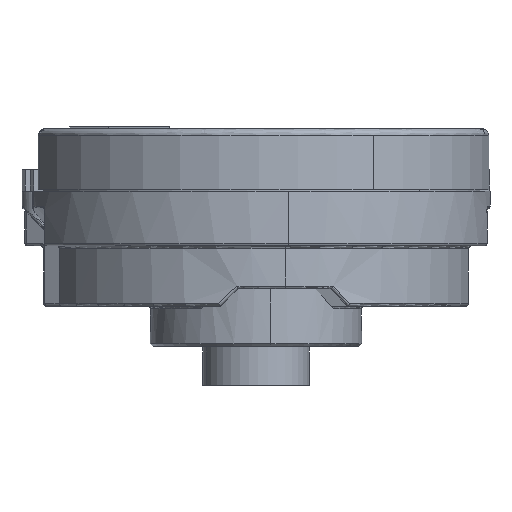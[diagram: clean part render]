
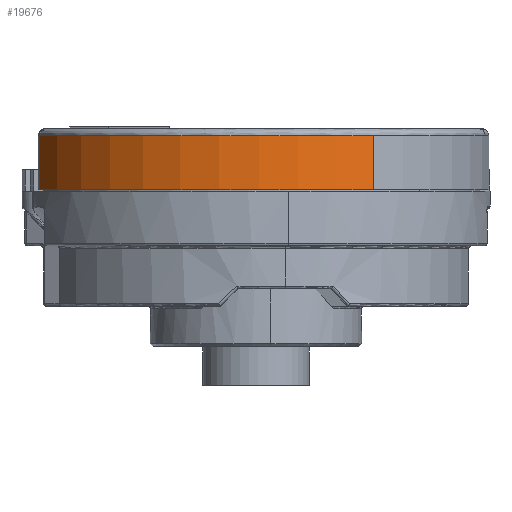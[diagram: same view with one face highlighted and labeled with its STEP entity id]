
A CAD part, left-side view. The second image highlights one B-rep face of the part: STEP entity #19676.
In plain terms, the highlighted cylindrical face has radius 17.5 mm (diameter 35 mm), a partial arc.
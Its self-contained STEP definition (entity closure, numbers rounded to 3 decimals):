
#90 = CARTESIAN_POINT ( 'NONE',  ( -15.033, -9.141, 39.805 ) ) ;
#664 = FACE_OUTER_BOUND ( 'NONE', #13046, .T. ) ;
#4147 = EDGE_CURVE ( 'NONE', #8401, #34203, #47808, .T. ) ;
#4255 = EDGE_CURVE ( 'NONE', #39911, #8401, #15927, .T. ) ;
#4341 = AXIS2_PLACEMENT_3D ( 'NONE', #39244, #16909, #8769 ) ;
#4467 = VECTOR ( 'NONE', #14940, 1000. ) ;
#4901 = CARTESIAN_POINT ( 'NONE',  ( -6.461, 15.826, 39.355 ) ) ;
#7771 = CYLINDRICAL_SURFACE ( 'NONE', #4341, 17.5 ) ;
#8401 = VERTEX_POINT ( 'NONE', #30155 ) ;
#8769 = DIRECTION ( 'NONE',  ( -0.866, -0.5, 0. ) ) ;
#13046 = EDGE_LOOP ( 'NONE', ( #15493, #17741, #27189, #36964 ) ) ;
#13179 = LINE ( 'NONE', #21092, #17126 ) ;
#14227 = CARTESIAN_POINT ( 'NONE',  ( 0.121, -0.389, 39.805 ) ) ;
#14550 = CARTESIAN_POINT ( 'NONE',  ( -6.461, 15.826, 43.855 ) ) ;
#14687 = DIRECTION ( 'NONE',  ( 0., 0., 1. ) ) ;
#14940 = DIRECTION ( 'NONE',  ( 0., 0., -1. ) ) ;
#15493 = ORIENTED_EDGE ( 'NONE', *, *, #4147, .T. ) ;
#15690 = VERTEX_POINT ( 'NONE', #44959 ) ;
#15927 = LINE ( 'NONE', #4901, #4467 ) ;
#16909 = DIRECTION ( 'NONE',  ( 0., 0., 1. ) ) ;
#17037 = DIRECTION ( 'NONE',  ( 0., 0., 1. ) ) ;
#17126 = VECTOR ( 'NONE', #47429, 1000. ) ;
#17741 = ORIENTED_EDGE ( 'NONE', *, *, #36003, .T. ) ;
#19676 = ADVANCED_FACE ( 'NONE', ( #664 ), #7771, .T. ) ;
#20238 = EDGE_CURVE ( 'NONE', #39911, #15690, #41531, .T. ) ;
#21092 = CARTESIAN_POINT ( 'NONE',  ( -15.033, -9.141, 39.355 ) ) ;
#24543 = DIRECTION ( 'NONE',  ( -0.372, 0.928, 0. ) ) ;
#25703 = AXIS2_PLACEMENT_3D ( 'NONE', #31923, #17037, #24543 ) ;
#26407 = AXIS2_PLACEMENT_3D ( 'NONE', #14227, #14687, #47969 ) ;
#27189 = ORIENTED_EDGE ( 'NONE', *, *, #20238, .F. ) ;
#30155 = CARTESIAN_POINT ( 'NONE',  ( -6.461, 15.826, 39.805 ) ) ;
#31923 = CARTESIAN_POINT ( 'NONE',  ( 0.121, -0.389, 43.855 ) ) ;
#34203 = VERTEX_POINT ( 'NONE', #90 ) ;
#36003 = EDGE_CURVE ( 'NONE', #34203, #15690, #13179, .T. ) ;
#36964 = ORIENTED_EDGE ( 'NONE', *, *, #4255, .T. ) ;
#39244 = CARTESIAN_POINT ( 'NONE',  ( 0.121, -0.389, 39.355 ) ) ;
#39911 = VERTEX_POINT ( 'NONE', #14550 ) ;
#41531 = CIRCLE ( 'NONE', #25703, 17.5 ) ;
#44959 = CARTESIAN_POINT ( 'NONE',  ( -15.033, -9.141, 43.855 ) ) ;
#47429 = DIRECTION ( 'NONE',  ( 0., 0., 1. ) ) ;
#47808 = CIRCLE ( 'NONE', #26407, 17.5 ) ;
#47969 = DIRECTION ( 'NONE',  ( -0.866, -0.5, 0. ) ) ;
